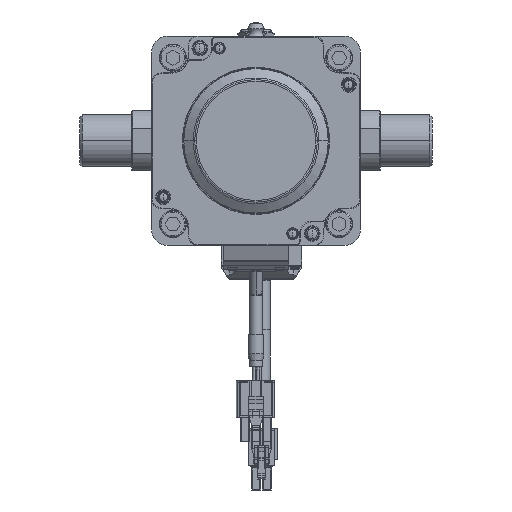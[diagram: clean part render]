
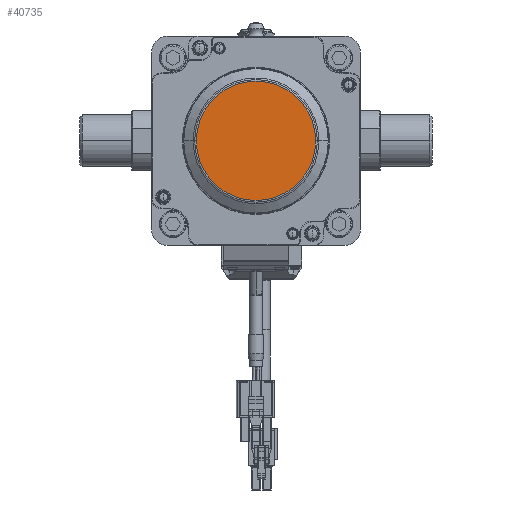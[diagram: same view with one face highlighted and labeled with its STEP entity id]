
A CAD part, front view. The second image highlights one B-rep face of the part: STEP entity #40735.
In plain terms, the highlighted planar face has unit normal (0, -1, 0) as drawn and (-1, 0, 0) by its records, which use the part's own axes.
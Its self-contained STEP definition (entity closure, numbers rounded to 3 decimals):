
#33716=CARTESIAN_POINT('',(-91.9,0.,0.));
#33717=DIRECTION('',(-1.,0.,0.));
#33718=DIRECTION('',(0.,0.,-1.));
#33719=AXIS2_PLACEMENT_3D('',#33716,#33717,#33718);
#33721=CARTESIAN_POINT('',(-91.9,0.,0.));
#33722=DIRECTION('',(-1.,0.,0.));
#33723=DIRECTION('',(0.,0.,1.));
#33724=AXIS2_PLACEMENT_3D('',#33721,#33722,#33723);
#35548=CARTESIAN_POINT('',(-91.9,0.,-22.84));
#35550=VERTEX_POINT('',#35548);
#35554=CARTESIAN_POINT('',(-91.9,0.,22.84));
#35555=VERTEX_POINT('',#35554);
#40725=CARTESIAN_POINT('',(-91.9,-22.,36.));
#40726=DIRECTION('',(1.,0.,0.));
#40727=DIRECTION('',(0.,0.,-1.));
#40728=AXIS2_PLACEMENT_3D('',#40725,#40726,#40727);
#40729=PLANE('',#40728);
#40730=ORIENTED_EDGE('',*,*,#40715,.F.);
#40732=ORIENTED_EDGE('',*,*,#40731,.F.);
#40733=EDGE_LOOP('',(#40730,#40732));
#40734=FACE_OUTER_BOUND('',#40733,.F.);
#40735=ADVANCED_FACE('',(#40734),#40729,.F.);
#33720=CIRCLE('',#33719,22.84);
#33725=CIRCLE('',#33724,22.84);
#40715=EDGE_CURVE('',#35550,#35555,#33720,.T.);
#40731=EDGE_CURVE('',#35555,#35550,#33725,.T.);
